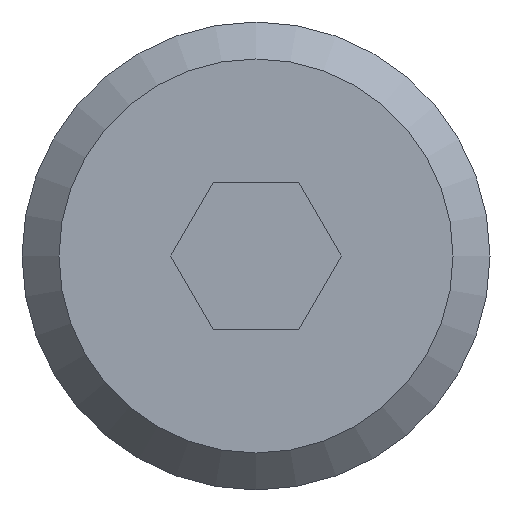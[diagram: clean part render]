
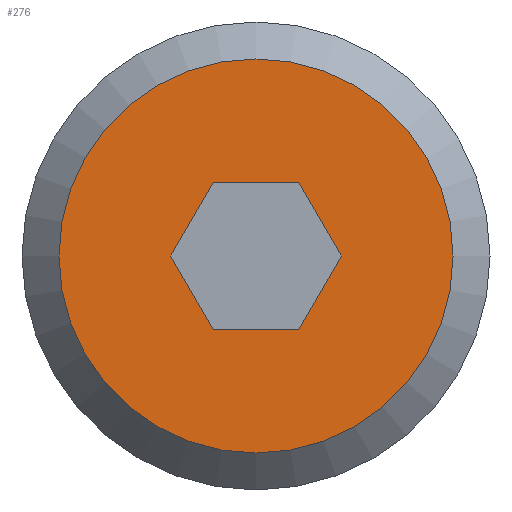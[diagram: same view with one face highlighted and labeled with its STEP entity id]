
A CAD part, front view. The second image highlights one B-rep face of the part: STEP entity #276.
In plain terms, the highlighted planar face has unit normal (0, -1, 0).
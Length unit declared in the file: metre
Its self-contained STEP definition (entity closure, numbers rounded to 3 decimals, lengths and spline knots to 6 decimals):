
#17=LINE('',#2188,#38);
#18=LINE('',#2191,#39);
#19=LINE('',#2193,#40);
#20=LINE('',#2195,#41);
#21=LINE('',#2197,#42);
#22=LINE('',#2199,#43);
#38=VECTOR('',#357,1.);
#39=VECTOR('',#358,1.);
#40=VECTOR('',#359,1.);
#41=VECTOR('',#360,1.);
#42=VECTOR('',#361,1.);
#43=VECTOR('',#362,1.);
#67=PLANE('',#312);
#113=ORIENTED_EDGE('',*,*,#150,.F.);
#114=ORIENTED_EDGE('',*,*,#168,.T.);
#115=ORIENTED_EDGE('',*,*,#169,.T.);
#116=ORIENTED_EDGE('',*,*,#170,.T.);
#117=ORIENTED_EDGE('',*,*,#171,.T.);
#118=ORIENTED_EDGE('',*,*,#172,.T.);
#119=ORIENTED_EDGE('',*,*,#173,.T.);
#150=EDGE_CURVE('',#186,#186,#211,.T.);
#168=EDGE_CURVE('',#199,#200,#17,.T.);
#169=EDGE_CURVE('',#200,#201,#18,.T.);
#170=EDGE_CURVE('',#201,#202,#19,.T.);
#171=EDGE_CURVE('',#202,#203,#20,.T.);
#172=EDGE_CURVE('',#203,#204,#21,.T.);
#173=EDGE_CURVE('',#204,#199,#22,.T.);
#186=VERTEX_POINT('',#392);
#199=VERTEX_POINT('',#2189);
#200=VERTEX_POINT('',#2190);
#201=VERTEX_POINT('',#2192);
#202=VERTEX_POINT('',#2194);
#203=VERTEX_POINT('',#2196);
#204=VERTEX_POINT('',#2198);
#211=CIRCLE('',#298,0.004);
#232=EDGE_LOOP('',(#113));
#233=EDGE_LOOP('',(#114,#115,#116,#117,#118,#119));
#255=FACE_BOUND('',#232,.T.);
#256=FACE_BOUND('',#233,.T.);
#276=ADVANCED_FACE('',(#255,#256),#67,.F.);
#298=AXIS2_PLACEMENT_3D('',#391,#324,#325);
#312=AXIS2_PLACEMENT_3D('',#2187,#355,#356);
#324=DIRECTION('',(0.,1.,0.));
#325=DIRECTION('',(1.,0.,0.));
#355=DIRECTION('',(0.,1.,0.));
#356=DIRECTION('',(1.,0.,0.));
#357=DIRECTION('',(1.,0.,0.));
#358=DIRECTION('',(0.5,0.,-0.866));
#359=DIRECTION('',(-0.5,0.,-0.866));
#360=DIRECTION('',(-1.,0.,0.));
#361=DIRECTION('',(-0.5,0.,0.866));
#362=DIRECTION('',(0.5,0.,0.866));
#391=CARTESIAN_POINT('',(0.261808,-0.01908,-0.223387));
#392=CARTESIAN_POINT('',(0.265808,-0.01908,-0.223387));
#2187=CARTESIAN_POINT('',(0.266558,-0.01908,-0.223387));
#2188=CARTESIAN_POINT('',(0.260942,-0.01908,-0.221887));
#2189=CARTESIAN_POINT('',(0.260942,-0.01908,-0.221887));
#2190=CARTESIAN_POINT('',(0.262674,-0.01908,-0.221887));
#2191=CARTESIAN_POINT('',(0.262674,-0.01908,-0.221887));
#2192=CARTESIAN_POINT('',(0.26354,-0.01908,-0.223387));
#2193=CARTESIAN_POINT('',(0.26354,-0.01908,-0.223387));
#2194=CARTESIAN_POINT('',(0.262674,-0.01908,-0.224887));
#2195=CARTESIAN_POINT('',(0.262674,-0.01908,-0.224887));
#2196=CARTESIAN_POINT('',(0.260942,-0.01908,-0.224887));
#2197=CARTESIAN_POINT('',(0.260942,-0.01908,-0.224887));
#2198=CARTESIAN_POINT('',(0.260076,-0.01908,-0.223387));
#2199=CARTESIAN_POINT('',(0.260076,-0.01908,-0.223387));
